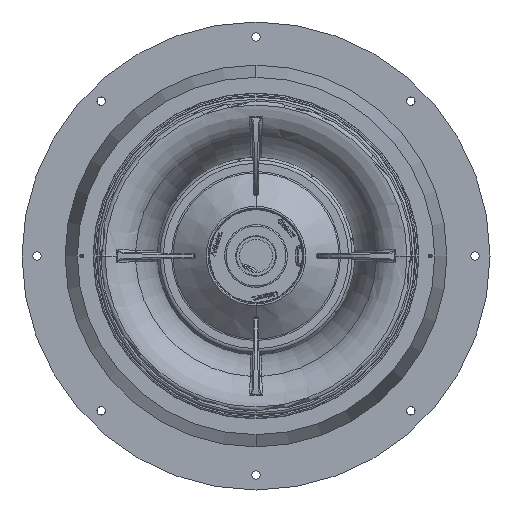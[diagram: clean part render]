
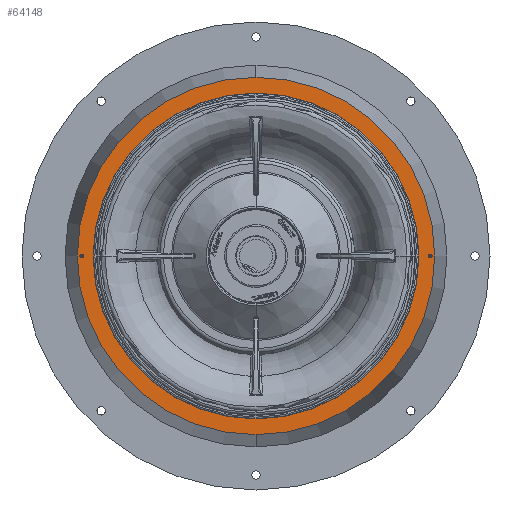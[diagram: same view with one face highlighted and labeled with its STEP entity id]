
A CAD part, front view. The second image highlights one B-rep face of the part: STEP entity #64148.
In plain terms, the highlighted planar face has unit normal (0, -1, 0).
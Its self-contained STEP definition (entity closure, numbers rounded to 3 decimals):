
#7127 = FACE_BOUND ( 'NONE', #289174, .T. ) ;
#12750 = CIRCLE ( 'NONE', #202559, 387.5 ) ;
#17391 = CARTESIAN_POINT ( 'NONE',  ( 0., -392., 0. ) ) ;
#20678 = VERTEX_POINT ( 'NONE', #230314 ) ;
#20791 = DIRECTION ( 'NONE',  ( 0., 0., 1. ) ) ;
#26163 = DIRECTION ( 'NONE',  ( 0., -1., 0. ) ) ;
#26649 = AXIS2_PLACEMENT_3D ( 'NONE', #63221, #277563, #115300 ) ;
#31513 = EDGE_CURVE ( 'NONE', #212985, #133825, #60674, .T. ) ;
#48390 = VERTEX_POINT ( 'NONE', #196720 ) ;
#52910 = CARTESIAN_POINT ( 'NONE',  ( 377.5, -392., 0. ) ) ;
#53317 = CARTESIAN_POINT ( 'NONE',  ( 0., -392., 0. ) ) ;
#53418 = EDGE_CURVE ( 'NONE', #130418, #20678, #202500, .T. ) ;
#54471 = ORIENTED_EDGE ( 'NONE', *, *, #31513, .T. ) ;
#60674 = CIRCLE ( 'NONE', #149862, 387.5 ) ;
#61927 = EDGE_CURVE ( 'NONE', #133825, #212985, #12750, .T. ) ;
#62071 = FACE_BOUND ( 'NONE', #110795, .T. ) ;
#62158 = CARTESIAN_POINT ( 'NONE',  ( 377.5, -392., -4.25 ) ) ;
#63221 = CARTESIAN_POINT ( 'NONE',  ( -387.5, -392., 0. ) ) ;
#64148 = ADVANCED_FACE ( 'NONE', ( #7127, #350185, #134006, #62071 ), #198328, .T. ) ;
#64533 = CARTESIAN_POINT ( 'NONE',  ( 0., -392., 387.5 ) ) ;
#78739 = CIRCLE ( 'NONE', #257867, 4.25 ) ;
#79617 = VERTEX_POINT ( 'NONE', #333309 ) ;
#81449 = EDGE_LOOP ( 'NONE', ( #337672, #54471 ) ) ;
#83641 = CIRCLE ( 'NONE', #95416, 352.5 ) ;
#95416 = AXIS2_PLACEMENT_3D ( 'NONE', #17391, #101248, #20791 ) ;
#95783 = EDGE_CURVE ( 'NONE', #315878, #48390, #270101, .T. ) ;
#96283 = EDGE_CURVE ( 'NONE', #48390, #315878, #78739, .T. ) ;
#101248 = DIRECTION ( 'NONE',  ( 0., -1., 0. ) ) ;
#107738 = DIRECTION ( 'NONE',  ( 0., 0., 1. ) ) ;
#110795 = EDGE_LOOP ( 'NONE', ( #221052, #174363 ) ) ;
#115300 = DIRECTION ( 'NONE',  ( 0., 0., 1. ) ) ;
#115898 = CIRCLE ( 'NONE', #252732, 4.25 ) ;
#127316 = VERTEX_POINT ( 'NONE', #333893 ) ;
#128209 = AXIS2_PLACEMENT_3D ( 'NONE', #198191, #166177, #331948 ) ;
#130418 = VERTEX_POINT ( 'NONE', #62158 ) ;
#133825 = VERTEX_POINT ( 'NONE', #64533 ) ;
#134006 = FACE_OUTER_BOUND ( 'NONE', #81449, .T. ) ;
#138501 = AXIS2_PLACEMENT_3D ( 'NONE', #52910, #267211, #234113 ) ;
#148757 = CARTESIAN_POINT ( 'NONE',  ( -377.5, -392., 0. ) ) ;
#149862 = AXIS2_PLACEMENT_3D ( 'NONE', #216909, #26163, #241708 ) ;
#153328 = AXIS2_PLACEMENT_3D ( 'NONE', #53317, #161097, #107738 ) ;
#161097 = DIRECTION ( 'NONE',  ( 0., -1., 0. ) ) ;
#166177 = DIRECTION ( 'NONE',  ( 0., -1., 0. ) ) ;
#174363 = ORIENTED_EDGE ( 'NONE', *, *, #191008, .F. ) ;
#187671 = EDGE_CURVE ( 'NONE', #20678, #130418, #115898, .T. ) ;
#191008 = EDGE_CURVE ( 'NONE', #127316, #79617, #83641, .T. ) ;
#196720 = CARTESIAN_POINT ( 'NONE',  ( -377.5, -392., -4.25 ) ) ;
#196890 = CARTESIAN_POINT ( 'NONE',  ( 377.5, -392., 0. ) ) ;
#198191 = CARTESIAN_POINT ( 'NONE',  ( -377.5, -392., 0. ) ) ;
#198328 = PLANE ( 'NONE',  #26649 ) ;
#202500 = CIRCLE ( 'NONE', #138501, 4.25 ) ;
#202559 = AXIS2_PLACEMENT_3D ( 'NONE', #297878, #325135, #272934 ) ;
#205615 = DIRECTION ( 'NONE',  ( 0., -1., 0. ) ) ;
#212985 = VERTEX_POINT ( 'NONE', #241993 ) ;
#214078 = ORIENTED_EDGE ( 'NONE', *, *, #187671, .F. ) ;
#216909 = CARTESIAN_POINT ( 'NONE',  ( 0., -392., 0. ) ) ;
#221052 = ORIENTED_EDGE ( 'NONE', *, *, #307098, .F. ) ;
#222692 = ORIENTED_EDGE ( 'NONE', *, *, #53418, .F. ) ;
#228754 = DIRECTION ( 'NONE',  ( 0., -1., 0. ) ) ;
#230314 = CARTESIAN_POINT ( 'NONE',  ( 377.5, -392., 4.25 ) ) ;
#234113 = DIRECTION ( 'NONE',  ( 0., 0., 1. ) ) ;
#241708 = DIRECTION ( 'NONE',  ( 0., 0., 1. ) ) ;
#241993 = CARTESIAN_POINT ( 'NONE',  ( 0., -392., -387.5 ) ) ;
#250270 = EDGE_LOOP ( 'NONE', ( #281433, #337283 ) ) ;
#252732 = AXIS2_PLACEMENT_3D ( 'NONE', #196890, #228754, #309284 ) ;
#256480 = DIRECTION ( 'NONE',  ( 0., 0., 1. ) ) ;
#257867 = AXIS2_PLACEMENT_3D ( 'NONE', #148757, #205615, #256480 ) ;
#267211 = DIRECTION ( 'NONE',  ( 0., -1., 0. ) ) ;
#270101 = CIRCLE ( 'NONE', #128209, 4.25 ) ;
#272934 = DIRECTION ( 'NONE',  ( 0., 0., 1. ) ) ;
#275284 = CARTESIAN_POINT ( 'NONE',  ( -377.5, -392., 4.25 ) ) ;
#277563 = DIRECTION ( 'NONE',  ( 0., -1., 0. ) ) ;
#281433 = ORIENTED_EDGE ( 'NONE', *, *, #95783, .F. ) ;
#289174 = EDGE_LOOP ( 'NONE', ( #214078, #222692 ) ) ;
#291335 = CIRCLE ( 'NONE', #153328, 352.5 ) ;
#297878 = CARTESIAN_POINT ( 'NONE',  ( 0., -392., 0. ) ) ;
#307098 = EDGE_CURVE ( 'NONE', #79617, #127316, #291335, .T. ) ;
#309284 = DIRECTION ( 'NONE',  ( 0., 0., 1. ) ) ;
#315878 = VERTEX_POINT ( 'NONE', #275284 ) ;
#325135 = DIRECTION ( 'NONE',  ( 0., -1., 0. ) ) ;
#331948 = DIRECTION ( 'NONE',  ( 0., 0., 1. ) ) ;
#333309 = CARTESIAN_POINT ( 'NONE',  ( 0., -392., 352.5 ) ) ;
#333893 = CARTESIAN_POINT ( 'NONE',  ( 0., -392., -352.5 ) ) ;
#337283 = ORIENTED_EDGE ( 'NONE', *, *, #96283, .F. ) ;
#337672 = ORIENTED_EDGE ( 'NONE', *, *, #61927, .T. ) ;
#350185 = FACE_BOUND ( 'NONE', #250270, .T. ) ;
